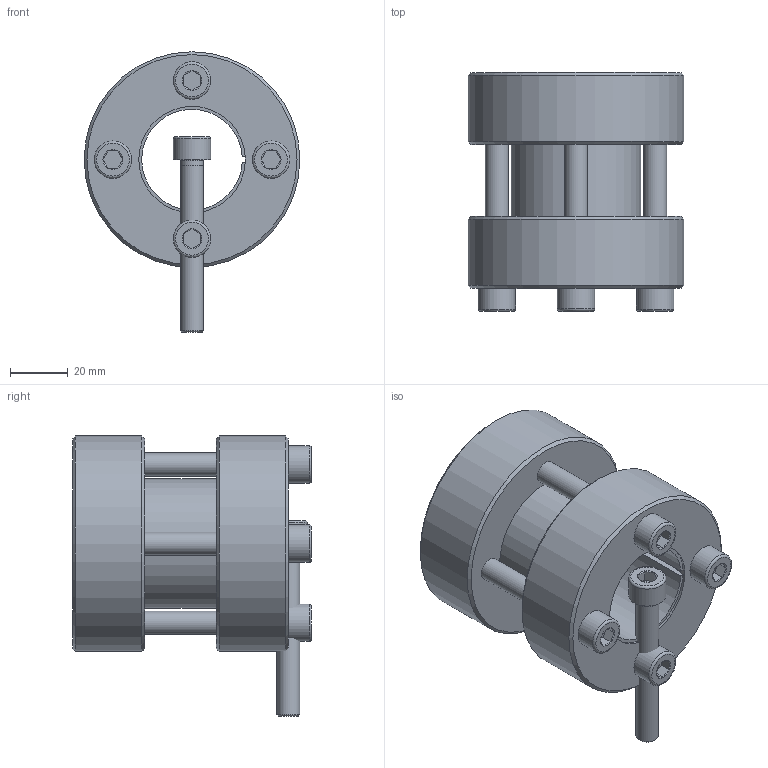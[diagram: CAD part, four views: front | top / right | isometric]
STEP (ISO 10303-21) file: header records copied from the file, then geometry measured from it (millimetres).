
FILE_DESCRIPTION( ( 'Unknown' ), '1' );
FILE_NAME( 'C:/Dokumente und Einstellungen/Sven/Desktop/homepage/cad - homepage/KBS95/KBS 95 - 35 x 75.stp', 'Unknown', ( 'Unknown' ), ( 'Unknown' ), 'XStep 1.0', 'Unknown', ' ' );
FILE_SCHEMA( ( 'automotive_design' ) );
Length unit declared in the file: millimetre
Products named in the file (3): Assem1; KBS 95 - 35 x 75; ISO EN DIN 4762 M8x60
Bounding box: 75 x 83 x 97.5 mm (x, y, z)
Volume: 374087.8 mm3; surface area: 91485.2 mm2
Topology: 7 solids, 7 shells, 181 faces, 379 edges, 232 vertices
Faces by surface type: plane 80, cone 47, cylinder 44, torus 10
Full cylindrical faces by diameter (mm): 7 x5, 8 x26, 13 x5, 75 x4
Entity records: 1726 total; most frequent: CARTESIAN_POINT 295, DIRECTION 252, ORIENTED_EDGE 190, AXIS2_PLACEMENT_3D 108, EDGE_LOOP 98, EDGE_CURVE 95, VERTEX_POINT 71, FACE_OUTER_BOUND 69
